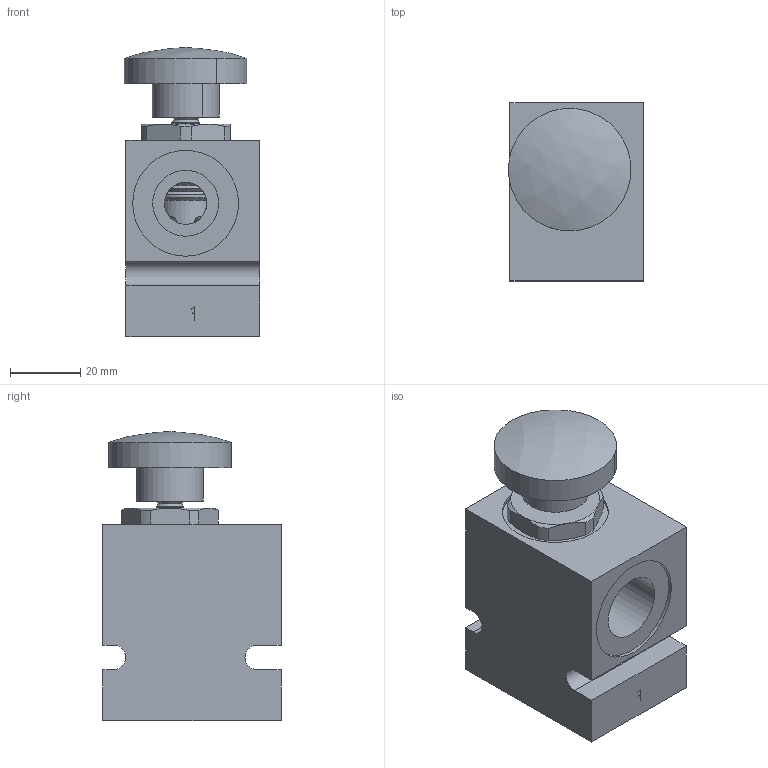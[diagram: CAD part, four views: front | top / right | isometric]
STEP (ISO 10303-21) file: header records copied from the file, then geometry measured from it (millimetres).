
FILE_DESCRIPTION( ( 'Unknown' ), '1' );
FILE_NAME( 'G:/Graphic Design/Graphic Design 2/Data Sheets/MANUAL_MECH OPERATED VALVES/4_STEP/2W2P Manual Valves/D-DEMCA0K-C2.stp', 'Unknown', ( 'Unknown' ), ( 'Unknown' ), 'PSStep 16.0.42', 'Unknown', ' ' );
FILE_SCHEMA( ( 'AUTOMOTIVE_DESIGN { 1 0 10303 214 1 1 1 1 }' ) );
Length unit declared in the file: millimetre
Products named in the file (8): D-DE-MCA-1-0K      ; DE-Nose; PT-OR-3-910-N70A; PT-OR-2-014-N70A; PT-BK-A-08-014A; DE-MCA-0K-Body; Assem1; B-DDEC2
Assembly tree (7 placements, depth 3):
  Assem1
    B-DDEC2
    D-DE-MCA-1-0K      
      DE-Nose
      PT-OR-3-910-N70A
      PT-OR-2-014-N70A
      PT-BK-A-08-014A
      DE-MCA-0K-Body
Bounding box: 38.56 x 50.8 x 82.42 mm (x, y, z)
Surface area: 28349.9 mm2 (no closed solid volume)
Topology: 0 solids, 181 shells, 181 faces, 765 edges, 695 vertices
Faces by surface type: plane 83, cone 50, cylinder 45, torus 2, sphere 1
Full cylindrical faces by diameter (mm): 0.2 x2, 3 x6, 7.811 x1, 7.9 x2, 12 x1, 13.3 x1, 14 x1, 15.9 x3, 17.043 x1, 17.3 x1, 18.8 x4, 18.879 x1, 20.262 x2, 30.17 x2, 30.175 x1
Entity records: 9582 total; most frequent: CARTESIAN_POINT 2672, DIRECTION 1102, VERTEX_POINT 666, ORIENTED_EDGE 664, EDGE_CURVE 664, AXIS2_PLACEMENT_3D 460, FACE_BOUND 282, EDGE_LOOP 280
